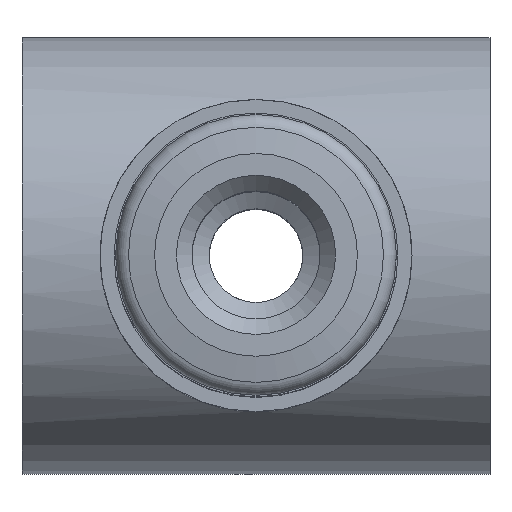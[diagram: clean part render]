
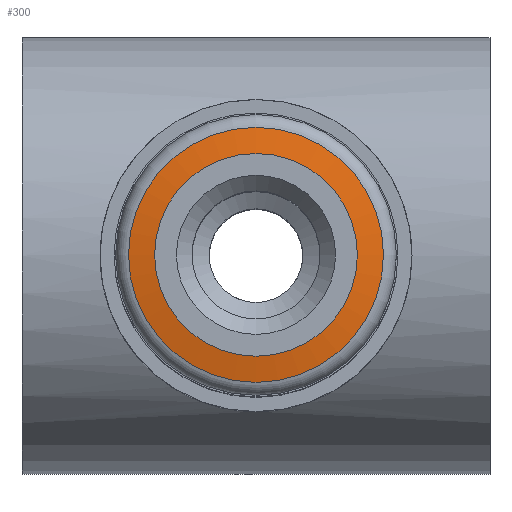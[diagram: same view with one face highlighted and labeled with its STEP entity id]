
A CAD part, top view. The second image highlights one B-rep face of the part: STEP entity #300.
In plain terms, the highlighted conical face has half-angle 80 degrees and reference radius 4.087 mm.
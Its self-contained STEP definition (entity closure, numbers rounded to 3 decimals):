
#300=ADVANCED_FACE('', (#310,#320), #330, .T.);
#2980=AXIS2_PLACEMENT_3D('Ax2Pl3d', #2990, #3000, #3010);
#3020=AXIS2_PLACEMENT_3D('Ax2Pl3d', #3030, #3040, #3050);
#3060=AXIS2_PLACEMENT_3D('Ax2Pl3d', #3070, #3080, #3090);
#2990=CARTESIAN_POINT('HicPkt', (13.222,13.384,
49.322));
#34120=CARTESIAN_POINT('', (17.309,13.384,49.322));
#3030=CARTESIAN_POINT('HicPkt', (13.222,13.384,
49.322));
#3070=CARTESIAN_POINT('HicPkt', (13.222,13.384,
49.469));
#34130=CARTESIAN_POINT('', (16.472,13.384,49.469));
#34750=CIRCLE('Circle', #2980, 4.087);
#34760=CIRCLE('Circle', #3060, 3.25);
#330=CONICAL_SURFACE('Kegel', #3020, 4.087, 1.396)
;
#3000=DIRECTION('Axis', (0.,0.,1.));
#3010=DIRECTION('RefDirection', (1.,0.,-0.));
#3040=DIRECTION('Axis', (0.,0.,-1.));
#3050=DIRECTION('RefDirection', (-1.,-0.,0.));
#3080=DIRECTION('Axis', (0.,0.,1.));
#3090=DIRECTION('RefDirection', (1.,0.,-0.));
#37260=EDGE_CURVE('', #37270, #37270, #34750, .T.);
#37280=EDGE_CURVE('', #37290, #37290, #34760, .T.);
#38650=EDGE_LOOP('Edge_loop', (#38660));
#38670=EDGE_LOOP('Edge_loop', (#38680));
#320=FACE_BOUND('', #38670, .T.);
#310=FACE_OUTER_BOUND('Face_outer_bound', #38650, .T.);
#38660=ORIENTED_EDGE('', *, *, #37260, .T.);
#38680=ORIENTED_EDGE('', *, *, #37280, .F.);
#37270=VERTEX_POINT('', #34120);
#37290=VERTEX_POINT('', #34130);
